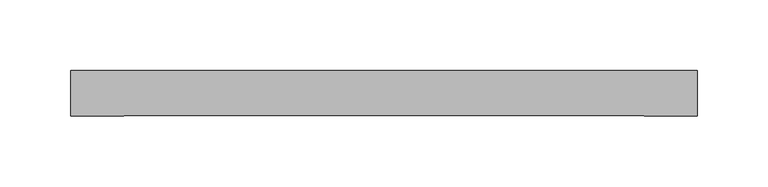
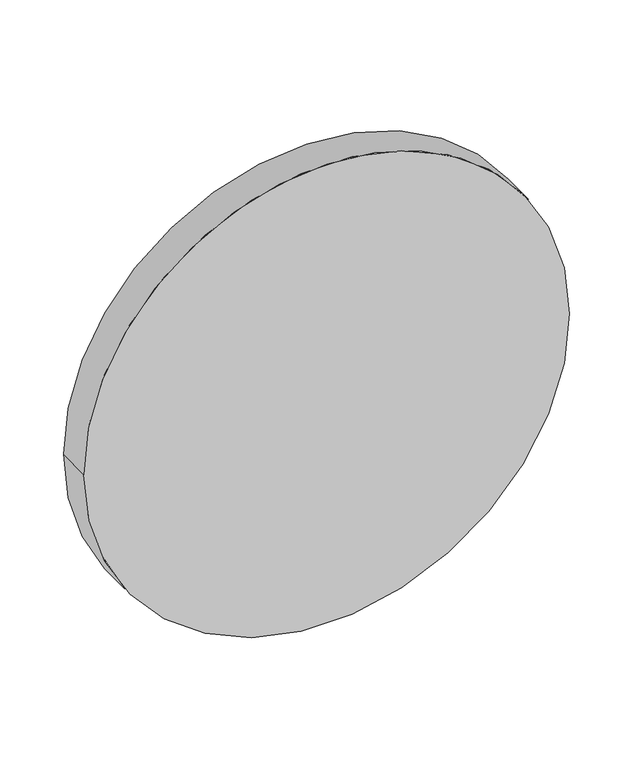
"""IFC4 building model written with IfcOpenShell, lengths in millimetres: proxy geometry, FOUNDATION^TABLE 1_ROUND-BASE BOTTOM."""

from ifc_helpers import new_model, si_unit, point, frame, origin, origin_2d, place, context, project, spatial, circle_curve, trimmed, segment, composite_curve, outline, extrude, source, transform, mapped, element, save


def generic_models_3b140b04(model_context):
    return source(origin(), model_context, "Body", "SweptSolid", [
        extrude(outline(composite_curve([segment(trimmed(circle_curve(origin_2d(), 220.6625), [point((0.0, 220.6625))], [point((0.0, -220.6625))], False, "CARTESIAN"), True, "CONTINUOUS"), segment(trimmed(circle_curve(origin_2d(), 220.6625), [point((0.0, -220.6625))], [point((0.0, 220.6625))], False, "CARTESIAN"), True, "CONTINUOUS")], self_intersect=False)), frame((0.0, -704.85, 0.0), z_axis=(0.0, 1.0, 0.0), x_axis=(0.0, 0.0, 1.0)), (0.0, 0.0, 1.0), 31.75),
    ])


if __name__ == "__main__":
    model = new_model("IFC4")
    model_context = context("Model", 3, world=origin())
    ifc_project = project(units=[si_unit("LENGTHUNIT", "METRE", prefix="MILLI")], contexts=[model_context])
    site = spatial("IfcSite", under=ifc_project)
    building = spatial("IfcBuilding", under=site)
    placement = place(None, origin())
    generic_models_shape = generic_models_3b140b04(model_context)
    element("IfcBuildingElementProxy", 1, Name="FOUNDATION^TABLE 1_ROUND-BASE BOTTOM", ObjectType="FOUNDATION^TABLE 1_ROUND-BASE BOTTOM", at=placement, inside=building, context=model_context, shape_type="MappedRepresentation", body=[
        mapped(generic_models_shape, transform((0.0, 0.0, 0.0), x_axis=(1.0, 0.0, 0.0), y_axis=(0.0, 1.0, 0.0), z_axis=(0.0, 0.0, 1.0))),
    ])
    save(model, "model.ifc")
